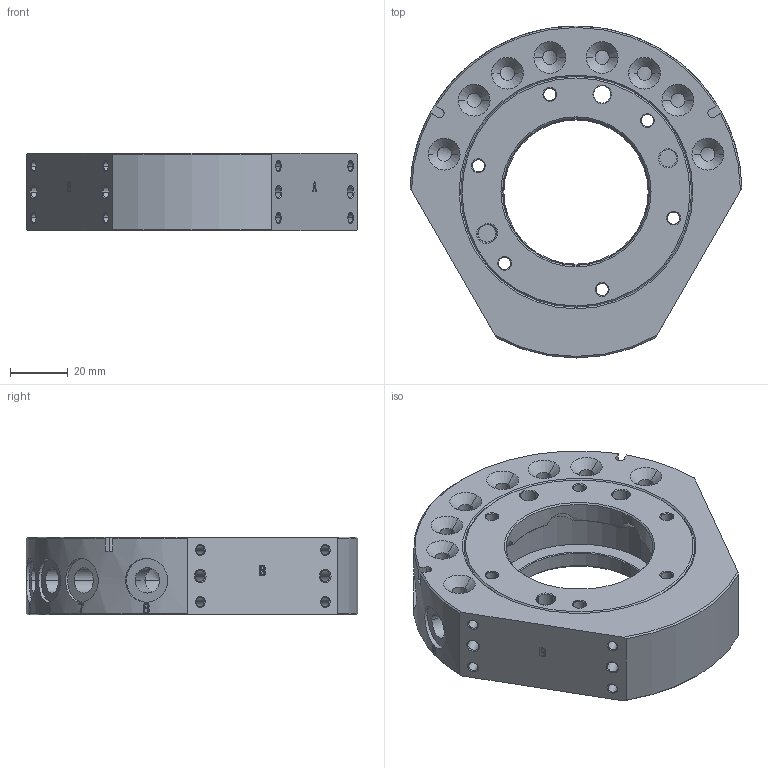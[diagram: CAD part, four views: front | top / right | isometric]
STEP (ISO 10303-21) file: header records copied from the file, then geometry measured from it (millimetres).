
FILE_DESCRIPTION (( 'STEP AP203' ), '1' );
FILE_NAME ('QCA-S50G.STEP', '2024-03-19T08:29:23', ( '微软用户' ), ( '微软中国' ), 'SwSTEP 2.0', 'SolidWorks 2018', '' );
FILE_SCHEMA (( 'CONFIG_CONTROL_DESIGN' ));
Length unit declared in the file: millimetre
Products named in the file (3): QCA-S50G; G50S笥撿耜-縐踡楊擘-1; G50S笥撿耜-掛极-1
Assembly tree (2 placements, depth 2):
  QCA-S50G
    G50S笥撿耜-掛极-1
    G50S笥撿耜-縐踡楊擘-1
Bounding box: 114.96 x 115 x 27 mm (x, y, z)
Volume: 173829.8 mm3; surface area: 49845 mm2
Topology: 2 solids, 2 shells, 514 faces, 1228 edges, 726 vertices
Faces by surface type: cone 199, cylinder 168, plane 108, bspline 34, torus 5
Entity records: 19334 total; most frequent: CARTESIAN_POINT 7413, DIRECTION 2437, ORIENTED_EDGE 2348, EDGE_CURVE 1174, AXIS2_PLACEMENT_3D 935, VERTEX_POINT 726, EDGE_LOOP 628, VECTOR 567
